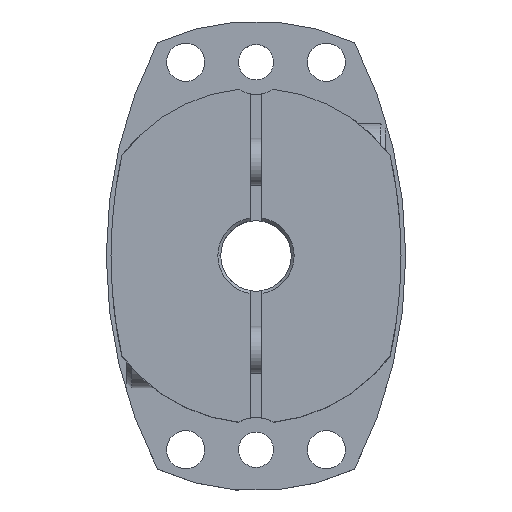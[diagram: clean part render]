
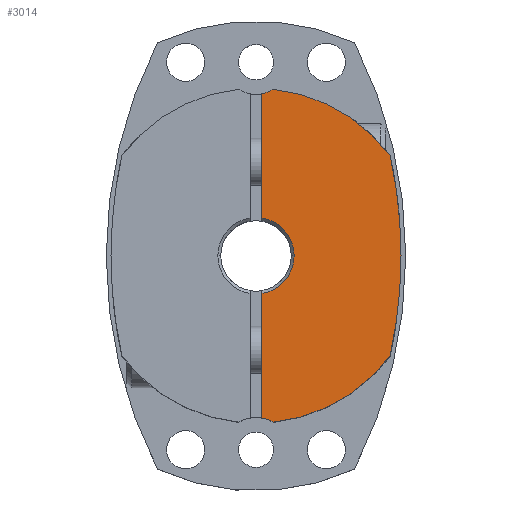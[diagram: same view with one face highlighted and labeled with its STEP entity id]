
A CAD part, top view. The second image highlights one B-rep face of the part: STEP entity #3014.
In plain terms, the highlighted planar face has unit normal (0, 0, 1).
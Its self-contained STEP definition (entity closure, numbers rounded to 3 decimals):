
#373=CARTESIAN_POINT('',(6.5,0.,25.5));
#374=VERTEX_POINT('',#373);
#381=CARTESIAN_POINT('',(1.,6.423,25.5));
#382=VERTEX_POINT('',#381);
#383=CARTESIAN_POINT('',(0.,0.,25.5));
#384=DIRECTION('',(0.0,0.0,1.0));
#385=DIRECTION('',(-1.0,0.0,0.0));
#386=AXIS2_PLACEMENT_3D('',#383,#384,#385);
#387=CIRCLE('',#386,6.5);
#388=EDGE_CURVE('',#374,#382,#387,.T.);
#537=CARTESIAN_POINT('',(24.7,0.,25.5));
#538=VERTEX_POINT('',#537);
#658=CARTESIAN_POINT('',(22.845,17.039,25.5));
#659=VERTEX_POINT('',#658);
#666=CARTESIAN_POINT('',(-54.5,0.,25.5));
#667=DIRECTION('',(0.0,0.0,-1.0));
#668=DIRECTION('',(1.0,0.0,0.0));
#669=AXIS2_PLACEMENT_3D('',#666,#667,#668);
#670=CIRCLE('',#669,79.2);
#671=EDGE_CURVE('',#659,#538,#670,.T.);
#2331=CARTESIAN_POINT('',(2.935,28.348,25.5));
#2332=VERTEX_POINT('',#2331);
#2339=CARTESIAN_POINT('',(0.,0.,25.5));
#2340=DIRECTION('',(0.0,0.0,-1.0));
#2341=DIRECTION('',(1.0,0.0,0.0));
#2342=AXIS2_PLACEMENT_3D('',#2339,#2340,#2341);
#2343=CIRCLE('',#2342,28.5);
#2344=EDGE_CURVE('',#2332,#659,#2343,.T.);
#2555=CARTESIAN_POINT('',(22.845,-17.039,25.5));
#2556=VERTEX_POINT('',#2555);
#2557=CARTESIAN_POINT('',(-54.5,0.,25.5));
#2558=DIRECTION('',(0.0,0.0,-1.0));
#2559=DIRECTION('',(1.0,0.0,0.0));
#2560=AXIS2_PLACEMENT_3D('',#2557,#2558,#2559);
#2561=CIRCLE('',#2560,79.2);
#2562=EDGE_CURVE('',#538,#2556,#2561,.T.);
#2679=CARTESIAN_POINT('',(1.,-27.592,25.5));
#2680=VERTEX_POINT('',#2679);
#2696=CARTESIAN_POINT('',(2.935,-28.348,25.5));
#2697=VERTEX_POINT('',#2696);
#2704=CARTESIAN_POINT('',(0.,-33.,25.5));
#2705=DIRECTION('',(0.0,0.0,-1.0));
#2706=DIRECTION('',(1.0,0.0,0.0));
#2707=AXIS2_PLACEMENT_3D('',#2704,#2705,#2706);
#2708=CIRCLE('',#2707,5.5);
#2709=EDGE_CURVE('',#2680,#2697,#2708,.T.);
#2888=CARTESIAN_POINT('',(1.,27.592,25.5));
#2889=VERTEX_POINT('',#2888);
#2896=CARTESIAN_POINT('',(0.,33.,25.5));
#2897=DIRECTION('',(0.0,0.0,-1.0));
#2898=DIRECTION('',(1.0,0.0,0.0));
#2899=AXIS2_PLACEMENT_3D('',#2896,#2897,#2898);
#2900=CIRCLE('',#2899,5.5);
#2901=EDGE_CURVE('',#2332,#2889,#2900,.T.);
#2936=CARTESIAN_POINT('',(1.,-6.423,25.5));
#2937=VERTEX_POINT('',#2936);
#2938=CARTESIAN_POINT('',(1.,-6.423,25.5));
#2939=DIRECTION('',(0.0,-1.0,0.0));
#2940=VECTOR('',#2939,21.169);
#2941=LINE('',#2938,#2940);
#2942=EDGE_CURVE('',#2937,#2680,#2941,.T.);
#2980=CARTESIAN_POINT('',(0.,0.,25.5));
#2981=DIRECTION('',(0.0,0.0,1.0));
#2982=DIRECTION('',(1.0,0.0,0.0));
#2983=AXIS2_PLACEMENT_3D('',#2980,#2981,#2982);
#2984=PLANE('',#2983);
#2985=ORIENTED_EDGE('',*,*,#2709,.T.);
#2986=CARTESIAN_POINT('',(0.,0.,25.5));
#2987=DIRECTION('',(0.0,0.0,-1.0));
#2988=DIRECTION('',(1.0,0.0,0.0));
#2989=AXIS2_PLACEMENT_3D('',#2986,#2987,#2988);
#2990=CIRCLE('',#2989,28.5);
#2991=EDGE_CURVE('',#2556,#2697,#2990,.T.);
#2992=ORIENTED_EDGE('',*,*,#2991,.F.);
#2993=ORIENTED_EDGE('',*,*,#2562,.F.);
#2994=ORIENTED_EDGE('',*,*,#671,.F.);
#2995=ORIENTED_EDGE('',*,*,#2344,.F.);
#2996=ORIENTED_EDGE('',*,*,#2901,.T.);
#2997=CARTESIAN_POINT('',(1.,27.592,25.5));
#2998=DIRECTION('',(0.0,-1.0,0.0));
#2999=VECTOR('',#2998,21.169);
#3000=LINE('',#2997,#2999);
#3001=EDGE_CURVE('',#2889,#382,#3000,.T.);
#3002=ORIENTED_EDGE('',*,*,#3001,.T.);
#3003=ORIENTED_EDGE('',*,*,#388,.F.);
#3004=CARTESIAN_POINT('',(0.,0.,25.5));
#3005=DIRECTION('',(0.0,0.0,1.0));
#3006=DIRECTION('',(-1.0,0.0,0.0));
#3007=AXIS2_PLACEMENT_3D('',#3004,#3005,#3006);
#3008=CIRCLE('',#3007,6.5);
#3009=EDGE_CURVE('',#2937,#374,#3008,.T.);
#3010=ORIENTED_EDGE('',*,*,#3009,.F.);
#3011=ORIENTED_EDGE('',*,*,#2942,.T.);
#3012=EDGE_LOOP('',(#2985,#2992,#2993,#2994,#2995,#2996,#3002,#3003,#3010,#3011));
#3013=FACE_OUTER_BOUND('',#3012,.T.);
#3014=ADVANCED_FACE('',(#3013),#2984,.T.);
